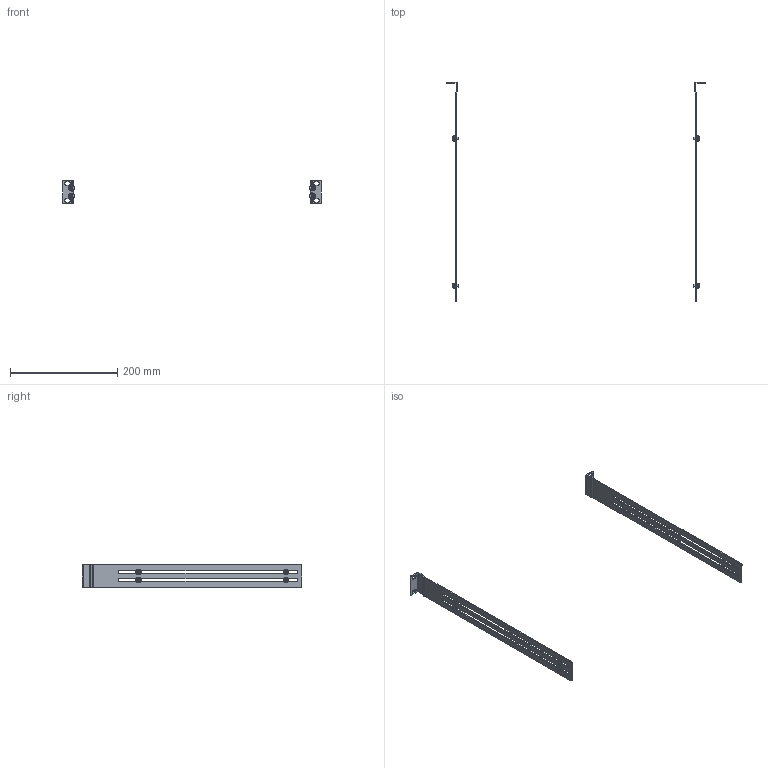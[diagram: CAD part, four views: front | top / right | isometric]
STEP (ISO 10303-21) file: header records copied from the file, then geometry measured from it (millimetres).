
FILE_DESCRIPTION(/* description */ ('19" Rack Side Rails','CAx-IF Rec.Pracs.---Representation and Presentation of Product Manufacturing Information (PMI)---4.0---2014-10-13'),/* implementation_level */ '2;1');
FILE_NAME(/* name */ 'E:\CAMTEC_2020_Pack and Go\Subrack_2U\2201008001CA.stp',/* time_stamp */ '2020-09-21T15:42:32+02:00',/* author */ ('rryba'),/* organization */ (''),/* preprocessor_version */ 'ST-DEVELOPER v18.1',/* originating_system */ 'Autodesk Inventor 2021',/* authorisation */ '');
FILE_SCHEMA (('AP242_MANAGED_MODEL_BASED_3D_ENGINEERING_MIM_LF { 1 0 10303 442 1 1 4 }'));
Length unit declared in the file: millimetre
Products named in the file (3): 2201008001CA; 2051047001; 2530397
Assembly tree (10 placements, depth 2):
  2201008001CA
    2051047001  x2
    2530397  x8
Bounding box: 483 x 410 x 43 mm (x, y, z)
Volume: 62339.7 mm3; surface area: 72200.4 mm2
Topology: 10 solids, 10 shells, 452 faces, 1730 edges, 1916 vertices
Faces by surface type: plane 344, cylinder 60, cone 32, torus 8, sphere 8
Full cylindrical faces by diameter (mm): 5 x8, 10 x8
Entity records: 3520 total; most frequent: CARTESIAN_POINT 707, DIRECTION 546, ORIENTED_EDGE 466, EDGE_CURVE 233, AXIS2_PLACEMENT_3D 198, LINE 150, VECTOR 150, VERTEX_POINT 147
